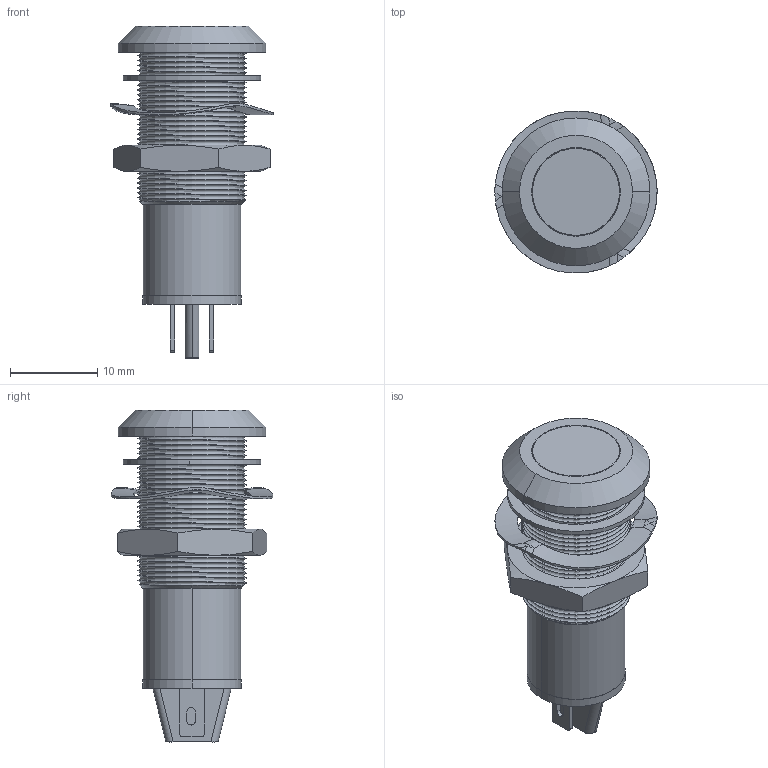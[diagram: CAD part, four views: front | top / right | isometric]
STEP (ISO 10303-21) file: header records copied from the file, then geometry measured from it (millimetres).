
FILE_DESCRIPTION (( 'STEP AP214' ), '1' );
FILE_NAME ('528series.STEP', '2014-06-04T09:51:17', ( 'davidt' ), ( '' ), 'SwSTEP 2.0', 'SolidWorks 2014', '' );
FILE_SCHEMA (( 'AUTOMOTIVE_DESIGN' ));
Length unit declared in the file: millimetre
Products named in the file (5): 528series; User Library-W0734-009; COM5000; COM3579; 528-501-22
Assembly tree (4 placements, depth 2):
  528series
    528-501-22
    COM3579
    COM5000
    User Library-W0734-009
Bounding box: 18.64 x 18.61 x 38.15 mm (x, y, z)
Volume: 4202 mm3; surface area: 3072.7 mm2
Topology: 4 solids, 4 shells, 185 faces, 496 edges, 318 vertices
Faces by surface type: cylinder 93, plane 42, cone 25, bspline 19, sphere 6
Entity records: 10068 total; most frequent: CARTESIAN_POINT 5777, ORIENTED_EDGE 980, DIRECTION 698, EDGE_CURVE 490, VERTEX_POINT 318, AXIS2_PLACEMENT_3D 271, EDGE_LOOP 200, ADVANCED_FACE 185
